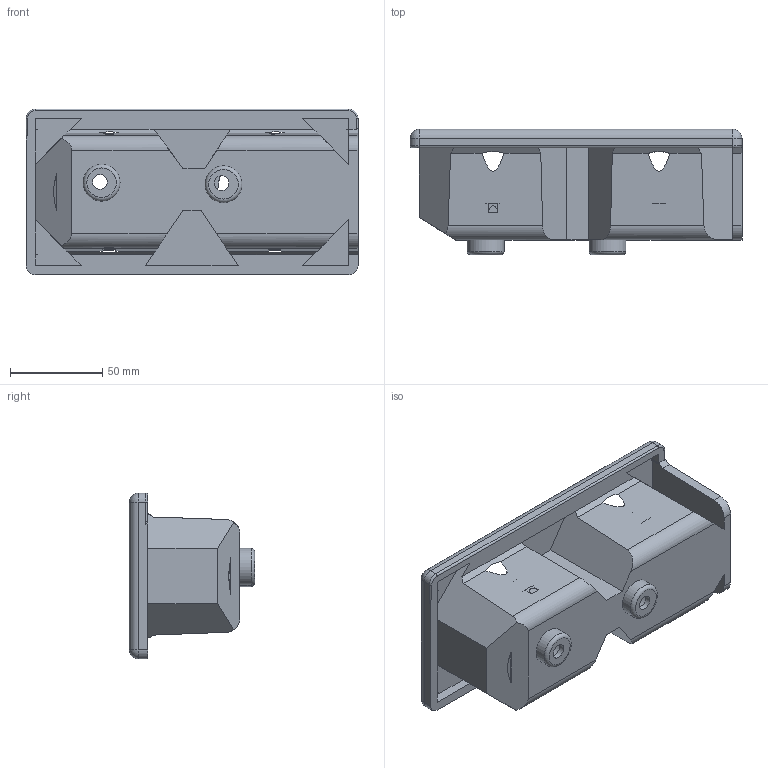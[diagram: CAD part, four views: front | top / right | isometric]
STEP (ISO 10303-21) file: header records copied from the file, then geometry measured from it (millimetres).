
FILE_DESCRIPTION(/* description */ (''),/* implementation_level */ '2;1');
FILE_NAME(/* name */ 'Cup Holder v11.step',/* time_stamp */ '2024-10-16T15:30:54+13:00',/* author */ (''),/* organization */ (''),/* preprocessor_version */ 'ST-DEVELOPER v20',/* originating_system */ 'Autodesk Translation Framework v13.20.0.188',/* authorisation */ '');
FILE_SCHEMA (('AUTOMOTIVE_DESIGN { 1 0 10303 214 3 1 1 }'));
Length unit declared in the file: millimetre
Products named in the file (1): Cup Holder
Bounding box: 180 x 68 x 90 mm (x, y, z)
Volume: 278873 mm3; surface area: 85790.5 mm2
Topology: 1 solids, 1 shells, 121 faces, 330 edges, 212 vertices
Faces by surface type: plane 72, cylinder 34, torus 7, sphere 4, bspline 2, cone 2
Full cylindrical faces by diameter (mm): 8 x2, 15 x2, 20 x2, 54 x1, 60 x1, 62.163 x1
Entity records: 4048 total; most frequent: CARTESIAN_POINT 869, ORIENTED_EDGE 660, DIRECTION 659, EDGE_CURVE 330, AXIS2_PLACEMENT_3D 223, LINE 213, VECTOR 213, VERTEX_POINT 212
